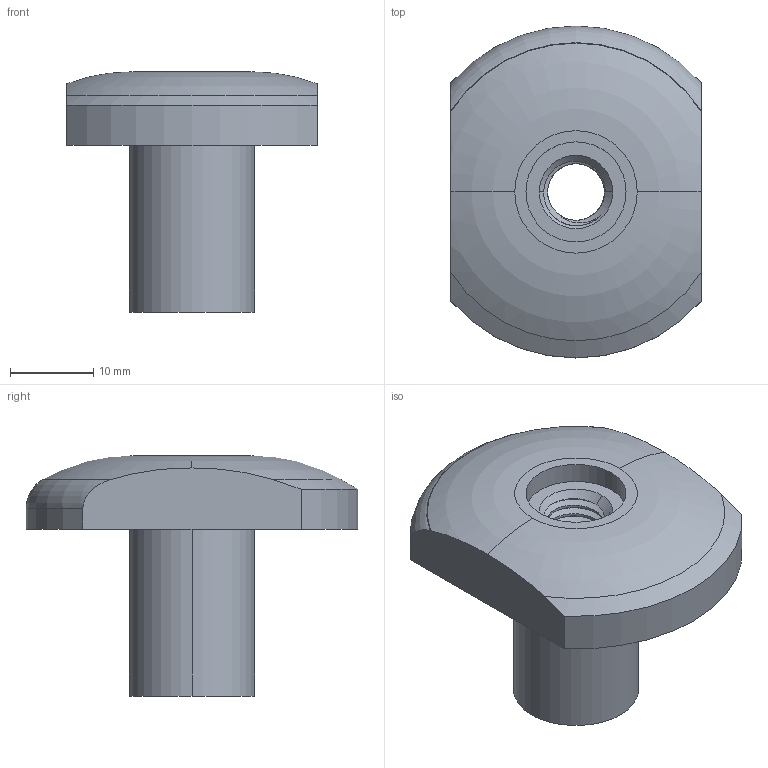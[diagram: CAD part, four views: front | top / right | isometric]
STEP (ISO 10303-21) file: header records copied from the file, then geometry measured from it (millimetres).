
FILE_DESCRIPTION (( 'STEP AP214' ), '1' );
FILE_NAME ('Äåòàëü Êðåïññ ì8.STEP', '2026-08-28T08:22:48', ( '' ), ( '' ), 'SwSTEP 2.0', 'SolidWorks 2024', '' );
FILE_SCHEMA (( 'AUTOMOTIVE_DESIGN' ));
Length unit declared in the file: millimetre
Products named in the file (1): Деталь Крепсс м8
Bounding box: 30 x 39.8 x 28.8 mm (x, y, z)
Volume: 9778.5 mm3; surface area: 4662.7 mm2
Topology: 1 solids, 1 shells, 46 faces, 122 edges, 81 vertices
Faces by surface type: cylinder 26, cone 7, plane 7, torus 3, bspline 3
Entity records: 4819 total; most frequent: CARTESIAN_POINT 3762, ORIENTED_EDGE 244, DIRECTION 182, EDGE_CURVE 122, VERTEX_POINT 81, AXIS2_PLACEMENT_3D 74, EDGE_LOOP 51, FACE_OUTER_BOUND 46
